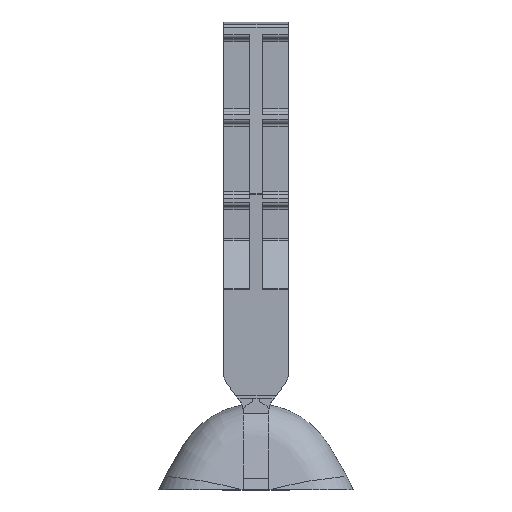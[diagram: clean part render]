
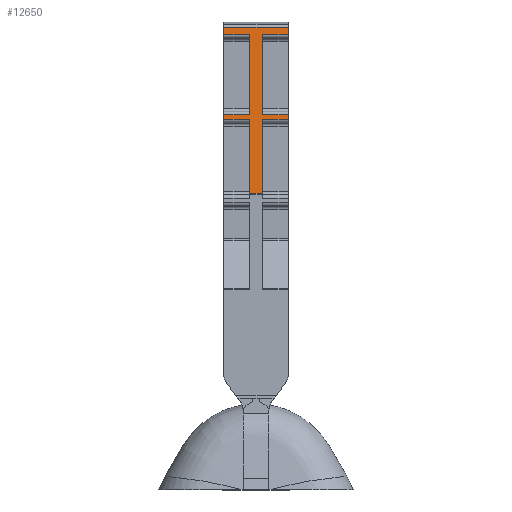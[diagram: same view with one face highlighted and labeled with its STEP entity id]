
A CAD part, top view. The second image highlights one B-rep face of the part: STEP entity #12650.
In plain terms, the highlighted planar face has unit normal (0, 0.07, 0.998).
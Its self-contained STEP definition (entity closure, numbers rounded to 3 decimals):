
#88 = LINE ( 'NONE', #16240, #23858 ) ;
#169 = ORIENTED_EDGE ( 'NONE', *, *, #8034, .T. ) ;
#185 = CARTESIAN_POINT ( 'NONE',  ( -4., 182.988, 20. ) ) ;
#196 = CARTESIAN_POINT ( 'NONE',  ( 4., 229.109, 16.746 ) ) ;
#260 = EDGE_CURVE ( 'NONE', #9340, #8839, #21556, .T. ) ;
#318 = VECTOR ( 'NONE', #22653, 1000. ) ;
#534 = VERTEX_POINT ( 'NONE', #7566 ) ;
#821 = VECTOR ( 'NONE', #21383, 1000. ) ;
#929 = CARTESIAN_POINT ( 'NONE',  ( -4., 229.109, 16.746 ) ) ;
#1286 = CARTESIAN_POINT ( 'NONE',  ( -25., 182.988, 20. ) ) ;
#1316 = DIRECTION ( 'NONE',  ( -1., 0., 0. ) ) ;
#1816 = FACE_OUTER_BOUND ( 'NONE', #10811, .T. ) ;
#1831 = DIRECTION ( 'NONE',  ( 0., 0.998, -0.07 ) ) ;
#2078 = ORIENTED_EDGE ( 'NONE', *, *, #6972, .T. ) ;
#2359 = CARTESIAN_POINT ( 'NONE',  ( 20., 229.109, 16.746 ) ) ;
#2426 = DIRECTION ( 'NONE',  ( -1., 0., 0. ) ) ;
#2458 = VERTEX_POINT ( 'NONE', #196 ) ;
#2534 = DIRECTION ( 'NONE',  ( 0., 0.998, -0.07 ) ) ;
#2556 = CARTESIAN_POINT ( 'NONE',  ( -25., 232.109, 16.535 ) ) ;
#3559 = ORIENTED_EDGE ( 'NONE', *, *, #260, .T. ) ;
#3563 = ORIENTED_EDGE ( 'NONE', *, *, #7934, .T. ) ;
#3692 = ORIENTED_EDGE ( 'NONE', *, *, #16297, .T. ) ;
#3730 = DIRECTION ( 'NONE',  ( 0., -0.07, -0.998 ) ) ;
#3905 = EDGE_CURVE ( 'NONE', #21808, #9668, #9834, .T. ) ;
#4198 = ORIENTED_EDGE ( 'NONE', *, *, #20138, .T. ) ;
#4431 = VERTEX_POINT ( 'NONE', #26083 ) ;
#4709 = VECTOR ( 'NONE', #17843, 1000. ) ;
#4726 = CARTESIAN_POINT ( 'NONE',  ( -25., 229.109, 16.746 ) ) ;
#4737 = VERTEX_POINT ( 'NONE', #9105 ) ;
#4938 = EDGE_CURVE ( 'NONE', #21808, #8839, #12961, .T. ) ;
#5023 = LINE ( 'NONE', #20044, #19375 ) ;
#5528 = CARTESIAN_POINT ( 'NONE',  ( 4., 182.988, 20. ) ) ;
#5911 = VECTOR ( 'NONE', #2534, 1000. ) ;
#6113 = CARTESIAN_POINT ( 'NONE',  ( 20., 183.339, 19.975 ) ) ;
#6134 = LINE ( 'NONE', #14605, #11686 ) ;
#6265 = CARTESIAN_POINT ( 'NONE',  ( -4., 229.109, 16.746 ) ) ;
#6400 = DIRECTION ( 'NONE',  ( 1., 0., 0. ) ) ;
#6933 = CARTESIAN_POINT ( 'NONE',  ( -20., 183.339, 19.975 ) ) ;
#6972 = EDGE_CURVE ( 'NONE', #23830, #534, #6134, .T. ) ;
#7433 = ORIENTED_EDGE ( 'NONE', *, *, #14323, .F. ) ;
#7566 = CARTESIAN_POINT ( 'NONE',  ( -4., 281.257, 13.067 ) ) ;
#7783 = DIRECTION ( 'NONE',  ( 1., 0., 0. ) ) ;
#7934 = EDGE_CURVE ( 'NONE', #4431, #21568, #12418, .T. ) ;
#8034 = EDGE_CURVE ( 'NONE', #11629, #4737, #10920, .T. ) ;
#8839 = VERTEX_POINT ( 'NONE', #17195 ) ;
#8980 = LINE ( 'NONE', #6933, #4709 ) ;
#9007 = CARTESIAN_POINT ( 'NONE',  ( -25., 285.91, 12.739 ) ) ;
#9105 = CARTESIAN_POINT ( 'NONE',  ( -20., 285.91, 12.739 ) ) ;
#9340 = VERTEX_POINT ( 'NONE', #26790 ) ;
#9668 = VERTEX_POINT ( 'NONE', #19919 ) ;
#9708 = CARTESIAN_POINT ( 'NONE',  ( -25., 281.257, 13.067 ) ) ;
#9834 = LINE ( 'NONE', #9708, #12110 ) ;
#10103 = VERTEX_POINT ( 'NONE', #12870 ) ;
#10711 = VECTOR ( 'NONE', #17048, 1000. ) ;
#10811 = EDGE_LOOP ( 'NONE', ( #19111, #4198, #15939, #3563, #3692, #17550, #21338, #18670, #22996, #3559, #25555, #18124, #19206, #169, #7433, #2078 ) ) ;
#10846 = VECTOR ( 'NONE', #2426, 1000. ) ;
#10920 = LINE ( 'NONE', #9007, #10846 ) ;
#10999 = AXIS2_PLACEMENT_3D ( 'NONE', #1286, #3730, #12223 ) ;
#11313 = VECTOR ( 'NONE', #1831, 1000. ) ;
#11500 = VERTEX_POINT ( 'NONE', #16800 ) ;
#11629 = VERTEX_POINT ( 'NONE', #19395 ) ;
#11686 = VECTOR ( 'NONE', #6400, 1000. ) ;
#11934 = DIRECTION ( 'NONE',  ( -1., 0., 0. ) ) ;
#11966 = CARTESIAN_POINT ( 'NONE',  ( 20., 183.339, 19.975 ) ) ;
#12110 = VECTOR ( 'NONE', #7783, 1000. ) ;
#12223 = DIRECTION ( 'NONE',  ( 0., -0.998, 0.07 ) ) ;
#12300 = VECTOR ( 'NONE', #16051, 1000. ) ;
#12418 = LINE ( 'NONE', #6265, #15205 ) ;
#12650 = ADVANCED_FACE ( 'Defeatured_0_9', ( #1816 ), #22611, .F. ) ;
#12710 = EDGE_CURVE ( 'NONE', #2458, #16498, #18085, .T. ) ;
#12870 = CARTESIAN_POINT ( 'NONE',  ( -4., 232.109, 16.535 ) ) ;
#12961 = LINE ( 'NONE', #23507, #14311 ) ;
#13244 = EDGE_CURVE ( 'NONE', #16498, #16977, #5023, .T. ) ;
#13713 = VERTEX_POINT ( 'NONE', #2359 ) ;
#13775 = CARTESIAN_POINT ( 'NONE',  ( -20., 281.257, 13.067 ) ) ;
#14119 = LINE ( 'NONE', #22453, #26587 ) ;
#14311 = VECTOR ( 'NONE', #21569, 1000. ) ;
#14323 = EDGE_CURVE ( 'NONE', #23830, #4737, #17157, .T. ) ;
#14605 = CARTESIAN_POINT ( 'NONE',  ( -4., 281.257, 13.067 ) ) ;
#14682 = VECTOR ( 'NONE', #25377, 1000. ) ;
#15205 = VECTOR ( 'NONE', #18837, 1000. ) ;
#15376 = EDGE_CURVE ( 'NONE', #2458, #13713, #21125, .T. ) ;
#15807 = CARTESIAN_POINT ( 'NONE',  ( 4., 183.339, 19.975 ) ) ;
#15939 = ORIENTED_EDGE ( 'NONE', *, *, #18601, .F. ) ;
#16051 = DIRECTION ( 'NONE',  ( 0., -0.998, 0.07 ) ) ;
#16226 = LINE ( 'NONE', #6113, #318 ) ;
#16240 = CARTESIAN_POINT ( 'NONE',  ( -4., 182.988, 20. ) ) ;
#16297 = EDGE_CURVE ( 'NONE', #21568, #16977, #88, .T. ) ;
#16327 = LINE ( 'NONE', #11966, #11313 ) ;
#16498 = VERTEX_POINT ( 'NONE', #15807 ) ;
#16800 = CARTESIAN_POINT ( 'NONE',  ( -20., 232.109, 16.535 ) ) ;
#16977 = VERTEX_POINT ( 'NONE', #19400 ) ;
#17048 = DIRECTION ( 'NONE',  ( -1., 0., 0. ) ) ;
#17157 = LINE ( 'NONE', #25652, #5911 ) ;
#17195 = CARTESIAN_POINT ( 'NONE',  ( 4., 232.109, 16.535 ) ) ;
#17442 = CARTESIAN_POINT ( 'NONE',  ( 4., 281.257, 13.067 ) ) ;
#17550 = ORIENTED_EDGE ( 'NONE', *, *, #13244, .F. ) ;
#17843 = DIRECTION ( 'NONE',  ( 0., 0.998, -0.07 ) ) ;
#18085 = LINE ( 'NONE', #5528, #12300 ) ;
#18124 = ORIENTED_EDGE ( 'NONE', *, *, #3905, .T. ) ;
#18407 = EDGE_CURVE ( 'NONE', #13713, #9340, #16226, .T. ) ;
#18601 = EDGE_CURVE ( 'NONE', #4431, #11500, #8980, .T. ) ;
#18670 = ORIENTED_EDGE ( 'NONE', *, *, #15376, .T. ) ;
#18837 = DIRECTION ( 'NONE',  ( 1., 0., 0. ) ) ;
#19111 = ORIENTED_EDGE ( 'NONE', *, *, #19931, .T. ) ;
#19206 = ORIENTED_EDGE ( 'NONE', *, *, #19743, .T. ) ;
#19375 = VECTOR ( 'NONE', #1316, 1000. ) ;
#19395 = CARTESIAN_POINT ( 'NONE',  ( 20., 285.91, 12.739 ) ) ;
#19400 = CARTESIAN_POINT ( 'NONE',  ( -4., 183.339, 19.975 ) ) ;
#19743 = EDGE_CURVE ( 'NONE', #9668, #11629, #16327, .T. ) ;
#19919 = CARTESIAN_POINT ( 'NONE',  ( 20., 281.257, 13.067 ) ) ;
#19931 = EDGE_CURVE ( 'NONE', #534, #10103, #23311, .T. ) ;
#20044 = CARTESIAN_POINT ( 'NONE',  ( -3., 183.339, 19.975 ) ) ;
#20138 = EDGE_CURVE ( 'NONE', #10103, #11500, #14119, .T. ) ;
#21125 = LINE ( 'NONE', #4726, #14682 ) ;
#21338 = ORIENTED_EDGE ( 'NONE', *, *, #12710, .F. ) ;
#21383 = DIRECTION ( 'NONE',  ( 0., -0.998, 0.07 ) ) ;
#21556 = LINE ( 'NONE', #2556, #10711 ) ;
#21568 = VERTEX_POINT ( 'NONE', #929 ) ;
#21569 = DIRECTION ( 'NONE',  ( 0., -0.998, 0.07 ) ) ;
#21808 = VERTEX_POINT ( 'NONE', #17442 ) ;
#22453 = CARTESIAN_POINT ( 'NONE',  ( -20., 232.109, 16.535 ) ) ;
#22611 = PLANE ( 'NONE',  #10999 ) ;
#22653 = DIRECTION ( 'NONE',  ( 0., 0.998, -0.07 ) ) ;
#22802 = DIRECTION ( 'NONE',  ( 0., -0.998, 0.07 ) ) ;
#22996 = ORIENTED_EDGE ( 'NONE', *, *, #18407, .T. ) ;
#23311 = LINE ( 'NONE', #185, #821 ) ;
#23507 = CARTESIAN_POINT ( 'NONE',  ( 4., 182.988, 20. ) ) ;
#23830 = VERTEX_POINT ( 'NONE', #13775 ) ;
#23858 = VECTOR ( 'NONE', #22802, 1000. ) ;
#25377 = DIRECTION ( 'NONE',  ( 1., 0., 0. ) ) ;
#25555 = ORIENTED_EDGE ( 'NONE', *, *, #4938, .F. ) ;
#25652 = CARTESIAN_POINT ( 'NONE',  ( -20., 183.339, 19.975 ) ) ;
#26083 = CARTESIAN_POINT ( 'NONE',  ( -20., 229.109, 16.746 ) ) ;
#26587 = VECTOR ( 'NONE', #11934, 1000. ) ;
#26790 = CARTESIAN_POINT ( 'NONE',  ( 20., 232.109, 16.535 ) ) ;
